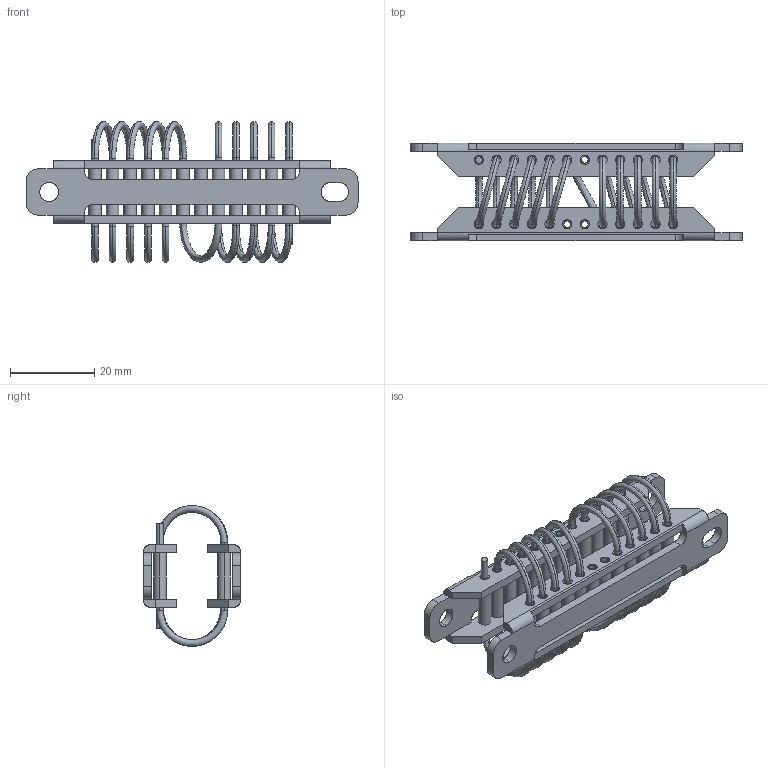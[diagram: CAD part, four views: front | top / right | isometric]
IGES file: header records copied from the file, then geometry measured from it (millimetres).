
Start section: SolidWorks IGES file using analytic representation for surfaces
Bounding box: 79 x 23.3 x 33.49 mm (x, y, z)
Surface area: 14057.5 mm2 (no closed solid volume)
Topology: 0 solids, 0 shells, 279 faces, 7217 edges, 7217 vertices
Faces by surface type: bspline 155, revolution 124
